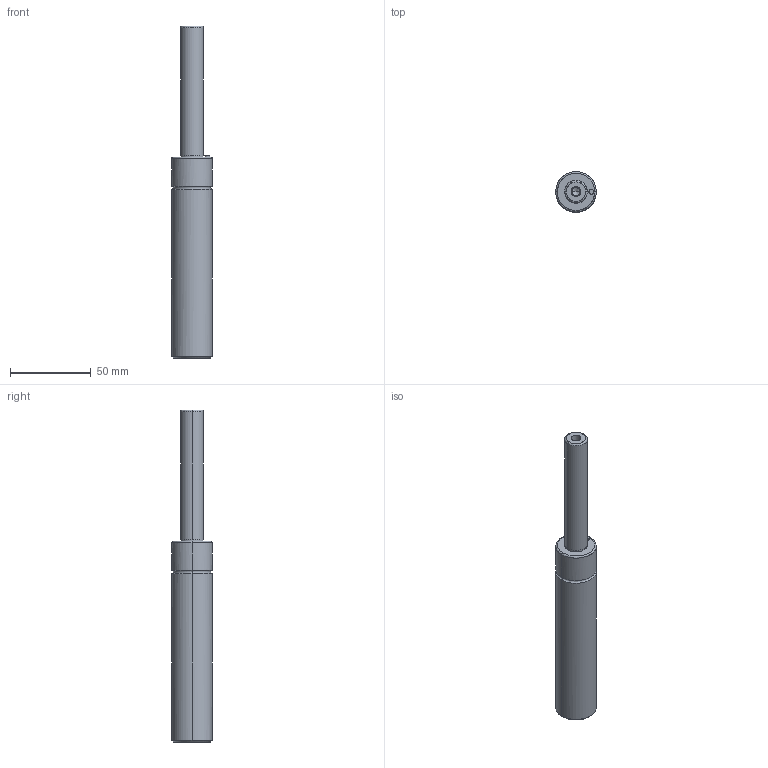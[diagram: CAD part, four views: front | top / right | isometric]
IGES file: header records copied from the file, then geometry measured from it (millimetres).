
Global section: file name: E:\UnigraphicsGraphicData\MISUMI_PRESS-PARTS\IGES\3d_mgsa25-80_04556_r00.igs; native system: NX V5.0; preprocessor: UGS NX IGES V5.0; author: MISUMI; date: 20110105.161433; units: millimetre
Bounding box: 25 x 24.95 x 205 mm (x, y, z)
Surface area: 14604.4 mm2 (no closed solid volume)
Topology: 0 solids, 0 shells, 36 faces, 216 edges, 212 vertices
Faces by surface type: bspline 36
